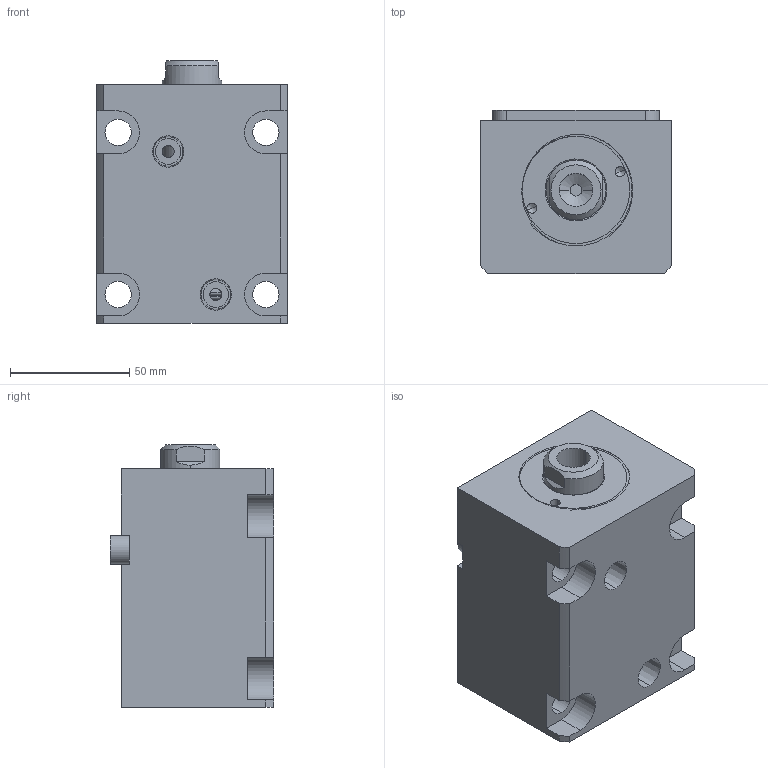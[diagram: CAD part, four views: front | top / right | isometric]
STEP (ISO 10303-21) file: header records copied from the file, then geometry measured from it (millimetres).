
FILE_DESCRIPTION (( 'STEP AP214' ), '1' );
FILE_NAME ('chtb-la40x45n_asm.STEP', '2018-05-31T01:50:07', ( 'Windows' ), ( 'Microsoft' ), 'SwSTEP 2.0', 'SolidWorks 2015', '' );
FILE_SCHEMA (( 'AUTOMOTIVE_DESIGN' ));
Length unit declared in the file: millimetre
Products named in the file (5): CHTB-SD40QG; CHTB-SD40X45NHSG; CHTB-LA40X45NBT; chtb-la40x45n_asm; CHTB-LA40PJ
Assembly tree (4 placements, depth 2):
  chtb-la40x45n_asm
    CHTB-LA40X45NBT
    CHTB-SD40X45NHSG
    CHTB-SD40QG
    CHTB-LA40PJ
Bounding box: 80 x 68.5 x 110 mm (x, y, z)
Volume: 439184.6 mm3; surface area: 87032.8 mm2
Topology: 4 solids, 4 shells, 160 faces, 430 edges, 286 vertices
Faces by surface type: cylinder 73, plane 48, bspline 14, cone 13, torus 12
Entity records: 10258 total; most frequent: CARTESIAN_POINT 6106, ORIENTED_EDGE 848, DIRECTION 787, EDGE_CURVE 424, AXIS2_PLACEMENT_3D 314, VERTEX_POINT 286, EDGE_LOOP 188, CIRCLE 161
